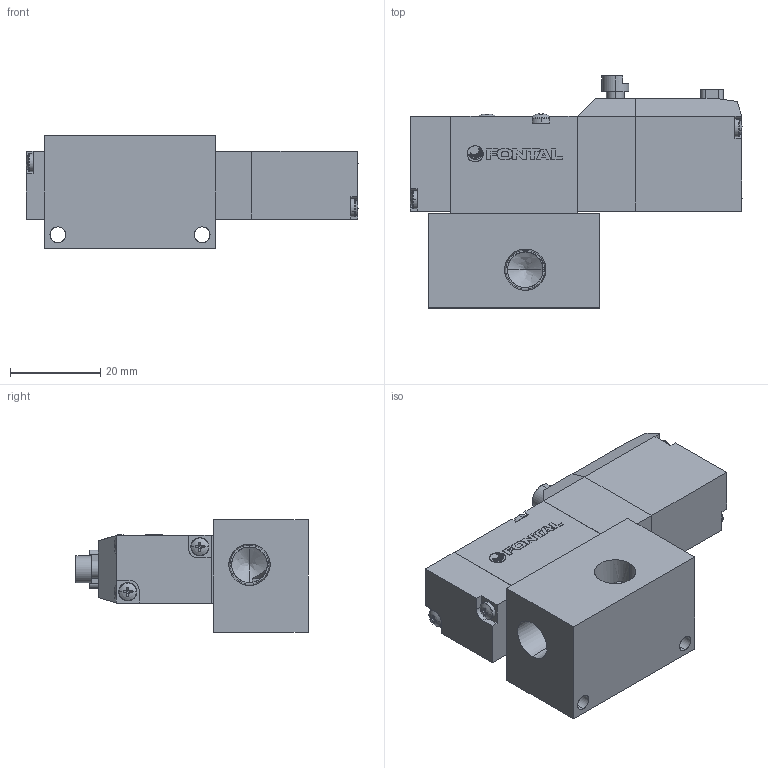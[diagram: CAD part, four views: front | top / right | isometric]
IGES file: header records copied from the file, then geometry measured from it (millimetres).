
Start section: SolidWorks IGES file using analytic representation for surfaces
Global section: file name: D:\Custom\3D繪製\PC\PCL5\PCL245#-01-#-U-#.IGS,1; native system: 5HSolidWorks 2014; preprocessor: SolidWorks 2014; author: Chieh_Lu; date: 150916.143228; units: millimetre
Bounding box: 73.64 x 51.5 x 25 mm (x, y, z)
Surface area: 16805.3 mm2 (no closed solid volume)
Topology: 0 solids, 0 shells, 498 faces, 4858 edges, 4836 vertices
Faces by surface type: bspline 303, revolution 195
